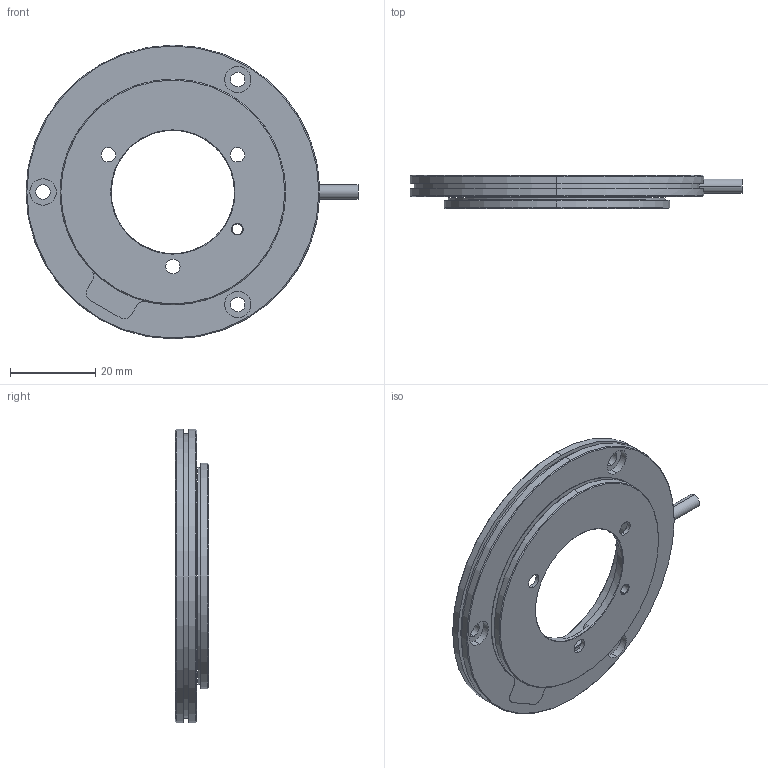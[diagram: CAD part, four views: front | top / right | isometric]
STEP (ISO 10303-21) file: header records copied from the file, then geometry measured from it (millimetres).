
FILE_DESCRIPTION (( 'STEP AP214' ), '1' );
FILE_NAME ('GMI-ROT-069-A11-K0x-AL_rev01.STEP', '2023-11-08T08:51:39', ( '' ), ( '' ), 'SwSTEP 2.0', 'SolidWorks 2021', '' );
FILE_SCHEMA (( 'AUTOMOTIVE_DESIGN' ));
Length unit declared in the file: millimetre
Products named in the file (1): GMI-ROT-069-A11-K0x-AL_rev01
Bounding box: 78 x 7.8 x 69 mm (x, y, z)
Volume: 14710.4 mm3; surface area: 17716.1 mm2
Topology: 6 solids, 6 shells, 215 faces, 515 edges, 325 vertices
Faces by surface type: cylinder 115, cone 50, plane 50
Entity records: 8844 total; most frequent: DIRECTION 1230, CARTESIAN_POINT 1104, ORIENTED_EDGE 1030, EDGE_CURVE 515, AXIS2_PLACEMENT_3D 507, VERTEX_POINT 325, CIRCLE 291, EDGE_LOOP 252
